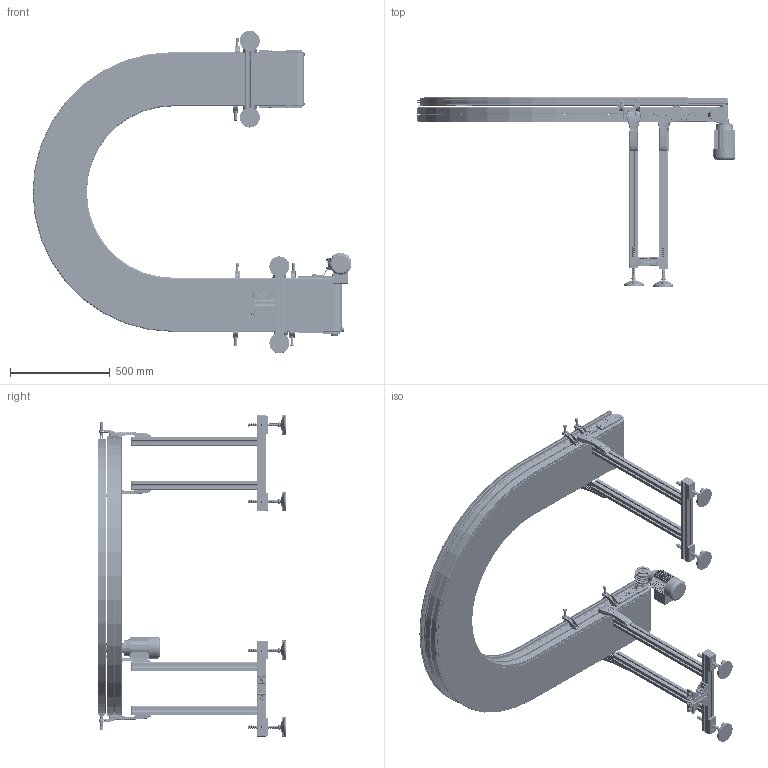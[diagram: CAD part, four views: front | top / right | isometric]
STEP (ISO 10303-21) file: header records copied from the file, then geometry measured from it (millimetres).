
FILE_DESCRIPTION (( 'STEP AP203' ), '1' );
FILE_NAME ('NASTRO_3020.step', '2026-06-02T15:20:51', ( 'Utente Windows' ), ( '' ), 'SwSTEP 2.0', 'SolidWorks 2024', '' );
FILE_SCHEMA (( 'CONFIG_CONTROL_DESIGN' ));
Length unit declared in the file: millimetre
Products named in the file (56): 084.711.005; RONDELLE FASCIA LARGA UNI 6593_6.4x24 UNI 6593; GAMBE_3020_Default<A macchina>; 084.802.077_chiuso; 3020.009.002; 084.301.000 VITI ALUSIC1_084.301.003; VITI TE UNI 5739_M8x16 UNI 5739; 084.405.001; TELAIO_3020_9_1_Default<A macchina>; NASTRO_3020; 2010.000.070; 084.302.000 DADI ALUSIC 13x13_084.302.004; 084.711.006_PER CAVA 8 PERNO ALTO 1; 084.307.006; CURVA_3020_9_180_SX_Default<A macchina>; CATENA_3020_LDX; 2010.000.069; VITI TSEI UNI 5933 INOX_0410UNI5933A2; 084.712.002; ANGOLARE_43; 084.802.017_084.802.017; 084.802.062; 084.711.007; 084.802.076_chiuso; CHIAVETTE_A 5x5x50 UNI 6604-69; 084.301.000 VITI ALUSIC_084.301.003; 084.808.012; 2010.000.068; 084.302.000 DADI ALUSIC 13x13-1_084.302.009; 084.711.006_L1; 3020.000.005; TELAIO_3020_9_7_Default<A macchina>; RONDELLE UNI 6592_8.4x17 UNI 6592; 3020.009.130_DX; 084.711.006_L2; 084.302.000 DADI ALUSIC 13x13-1_084.302.004; SPONDA_L_DX_Default<A macchina>; CHIAVETTE_A 5x5x30 UNI 6604-69; 2010.000.068_L; CH03P_DX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
Assembly tree (131 placements, depth 4):
  NASTRO_3020
    CATENA_3020_LDX
    3020.009.130_DX
      084.807.003_084.807.003<A macchina>  x2
      084.802.017_084.802.017  x2
      084.301.000 VITI ALUSIC_084.301.003  x4
      084.302.000 DADI ALUSIC 13x13_084.302.004  x4
      3020.009.007
      VITI TSEI UNI 5933 INOX_0410UNI5933A2  x4
      CHIAVETTE_A 5x5x50 UNI 6604-69
      CHIAVETTE_A 5x5x30 UNI 6604-69  x3
      3020.000.005  x3
      RONDELLE FASCIA LARGA UNI 6593_6.4x24 UNI 6593
      VITI TE UNI 5739_M6x16 UNI 5739
      084.802.077_chiuso
      084.802.078_chiuso con cono
      084.808.012
      VITI TE UNI 5739_M8x16 UNI 5739
      084.802.062
      RONDELLE UNI 6592_8.4x17 UNI 6592
    CURVA_3020_9_180_SX_Default<A macchina>
    3020.009.200
      084.802.008  x2
      084.301.000 VITI ALUSIC_084.301.003  x6
      084.302.000 DADI ALUSIC 13x13_084.302.004  x6
      3020.000.007
      3020.009.002
      084.807.014_084.807.002  x2
      084.802.076_chiuso  x2
      VITI TSEI UNI 5933 INOX_0410UNI5933A2  x4
    084.307.006
    TELAIO_3020_9_1_Default<A macchina>
    TELAIO_3020_9_7_Default<A macchina>
    084.712.002  x4
    084.711.006_PER CAVA 8 PERNO ALTO 1  x8
      084.711.006_L1
      084.711.006_L2
      084.711.007
      084.711.005
      084.711.010
      DADI ESAGONALI NORMALI UNI 5588_M6 UNI 5588
    SPONDA_L_DX_Default<A macchina>
    GAMBE_3020_Default<A macchina>  x2
    FLANGIA_GAMBA  x4
      084.302.000 DADI ALUSIC 13x13-1_084.302.004
      RONDELLE UNI 6592_8.4x17 UNI 6592
      084.301.000 VITI ALUSIC_084.301.003
      2010.000.068
        2010.000.068_L
        2010.000.069
        2010.000.070
    PIEDE  x4
      084.405.001
      084.402.005
      084.301.000 VITI ALUSIC1_084.301.003
    084.201.012-1  x8
    ANGOLARE_43  x4
      084.305.003-1
      084.302.000 DADI ALUSIC 13x13-1_084.302.009
      084.301.000 VITI ALUSIC_084.301.003
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Bounding box: 1597.7 x 946.15 x 1613.82 mm (x, y, z)
Volume: 32900674 mm3; surface area: 10893443.1 mm2
Topology: 288 solids, 292 shells, 15047 faces, 38974 edges, 24664 vertices
Faces by surface type: plane 6202, cylinder 5136, cone 1318, bspline 1284, torus 947, sphere 160
Entity records: 222046 total; most frequent: CARTESIAN_POINT 70333, ORIENTED_EDGE 31178, DIRECTION 29026, EDGE_CURVE 15589, AXIS2_PLACEMENT_3D 10012, VERTEX_POINT 9996, LINE 9002, VECTOR 9002
